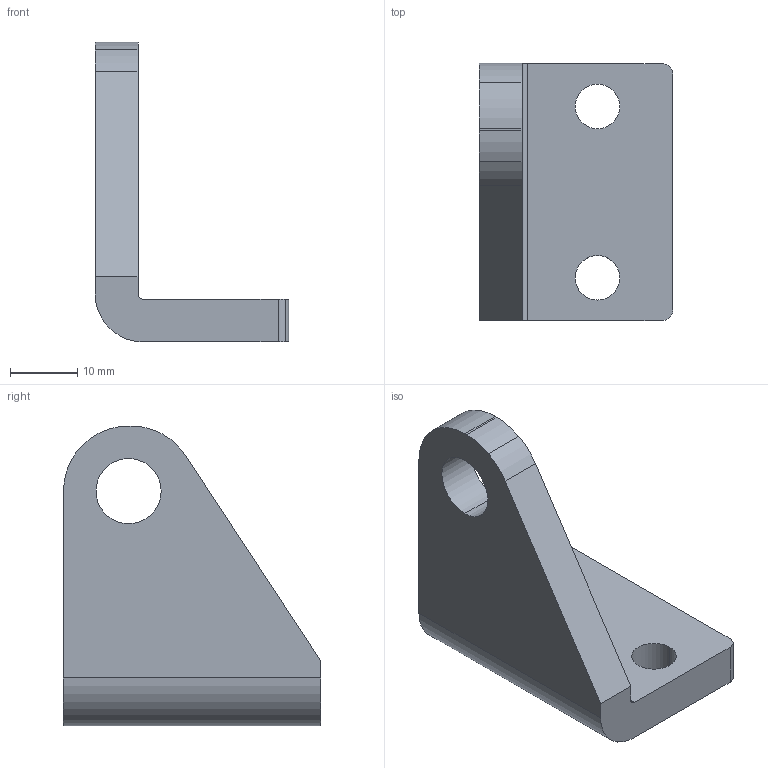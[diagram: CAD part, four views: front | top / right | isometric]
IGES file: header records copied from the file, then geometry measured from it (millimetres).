
Global section: file name: C:\Documents and Settings\Administrator\Desktop\Transfer Temp\pivotbracket2000right.igs; native system: AutoDesk Inventor R2.0 ; preprocessor: AutoDesk Inventor Iges Exporter R2.0; author: No Author specified; organization: No Organization specified; date: 20020124.180425; units: inch
Bounding box: 28.7 x 38.1 x 44.45 mm (x, y, z)
Surface area: 5456.8 mm2 (no closed solid volume)
Topology: 0 solids, 0 shells, 25 faces, 138 edges, 138 vertices
Faces by surface type: revolution 14, bspline 11
